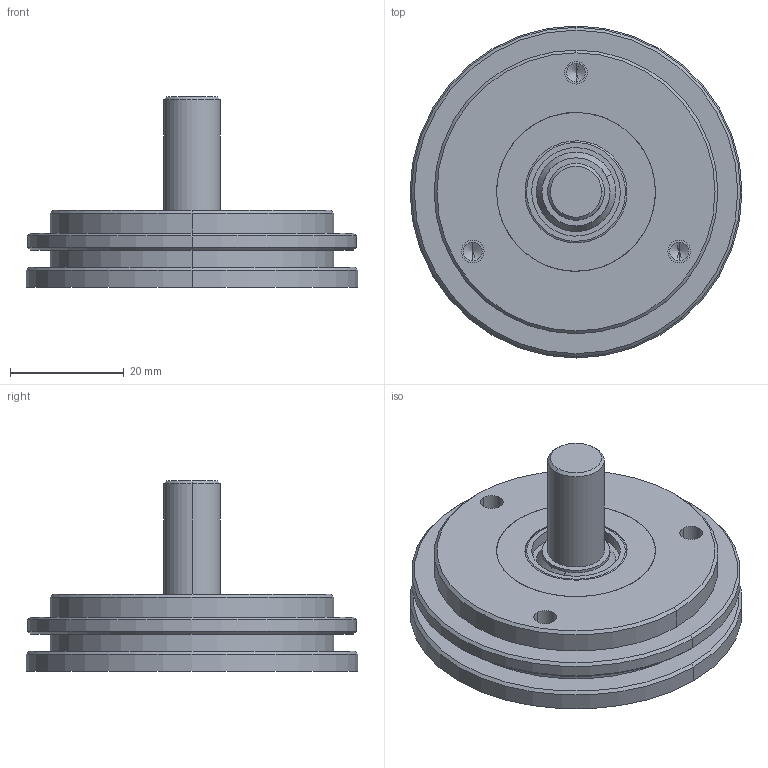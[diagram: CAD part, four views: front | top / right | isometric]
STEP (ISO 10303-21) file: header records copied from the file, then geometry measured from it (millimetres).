
FILE_DESCRIPTION (( 'STEP AP214' ), '1' );
FILE_NAME ('MCD-Y10S-Q5B-N.STEP', '2015-06-09T13:11:31', ( '' ), ( '' ), 'SwSTEP 2.0', 'SolidWorks 2015', '' );
FILE_SCHEMA (( 'AUTOMOTIVE_DESIGN' ));
Length unit declared in the file: millimetre
Products named in the file (1): MCD-Y10S-Q5B-N
Bounding box: 58.5 x 58.5 x 33.5 mm (x, y, z)
Volume: 29702.5 mm3; surface area: 17497.3 mm2
Topology: 15 solids, 18 shells, 368 faces, 893 edges, 570 vertices
Faces by surface type: plane 135, bspline 87, cylinder 62, cone 42, torus 26, sphere 16
Entity records: 19357 total; most frequent: CARTESIAN_POINT 7243, ORIENTED_EDGE 1682, DIRECTION 1455, EDGE_CURVE 841, VERTEX_POINT 546, AXIS2_PLACEMENT_3D 506, VECTOR 443, LINE 443
